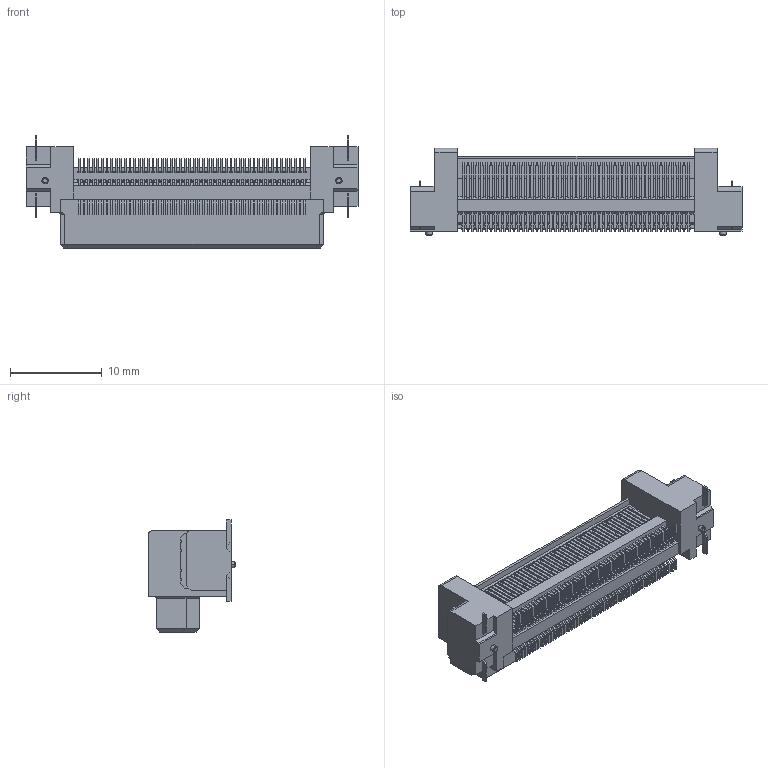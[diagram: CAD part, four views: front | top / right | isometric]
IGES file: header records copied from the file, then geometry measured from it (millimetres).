
Start section: Elysium IGES Interface
Global section: file name: 54HC:\Users\1314\Desktop\temp\回覧用-一時的\DT11-100L.igs; native system: CoCreate Modeling 17.0B  09-Oct-2010; preprocessor: CoCreate IGES_3D V2.2; author: Unknown; organization: Unknown; date: 20170519.132409; units: millimetre
Bounding box: 36.12 x 9.5 x 12.2 mm (x, y, z)
Volume: 1499.5 mm3; surface area: 2253 mm2
Topology: 1 solids, 1 shells, 5884 faces, 16503 edges, 10724 vertices
Faces by surface type: bspline 5884
